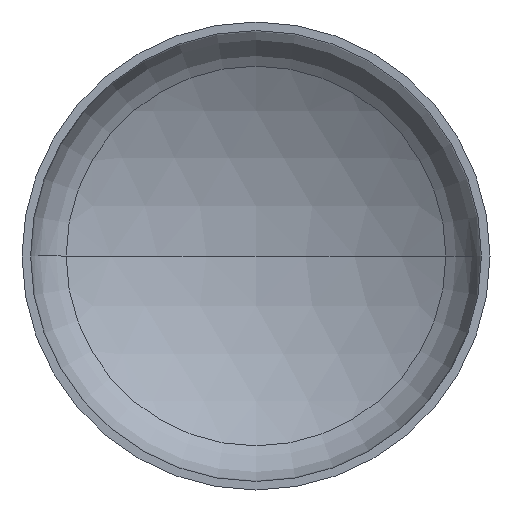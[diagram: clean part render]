
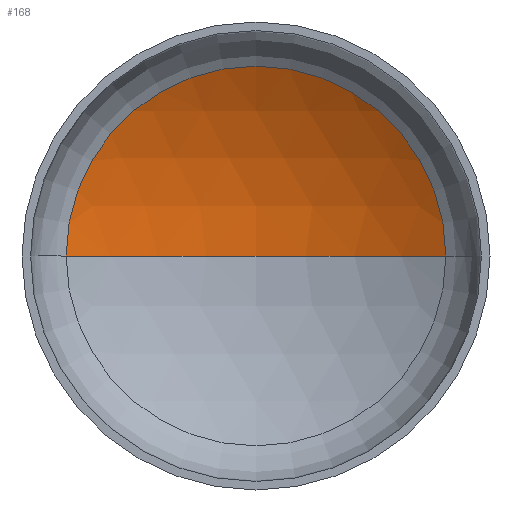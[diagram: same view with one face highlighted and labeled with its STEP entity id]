
A CAD part, front view. The second image highlights one B-rep face of the part: STEP entity #168.
In plain terms, the highlighted spherical face has radius 1920 mm.
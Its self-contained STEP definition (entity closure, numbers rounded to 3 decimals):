
#4 = CARTESIAN_POINT ( 'NONE',  ( 0., -1195.928, 0. ) ) ;
#11 = AXIS2_PLACEMENT_3D ( 'NONE', #112, #117, #229 ) ;
#16 = AXIS2_PLACEMENT_3D ( 'NONE', #119, #351, #176 ) ;
#18 = CARTESIAN_POINT ( 'NONE',  ( 0., 724.072, 0. ) ) ;
#32 = ORIENTED_EDGE ( 'NONE', *, *, #343, .T. ) ;
#34 = AXIS2_PLACEMENT_3D ( 'NONE', #4, #35, #373 ) ;
#35 = DIRECTION ( 'NONE',  ( 0., 0., -1. ) ) ;
#39 = SPHERICAL_SURFACE ( 'NONE', #34, 1920. ) ;
#48 = CARTESIAN_POINT ( 'NONE',  ( 973.626, 458.899, 0. ) ) ;
#53 = ORIENTED_EDGE ( 'NONE', *, *, #339, .T. ) ;
#79 = CARTESIAN_POINT ( 'NONE',  ( 0., -1195.928, 0. ) ) ;
#112 = CARTESIAN_POINT ( 'NONE',  ( 0., -1195.928, 0. ) ) ;
#115 = EDGE_LOOP ( 'NONE', ( #408, #32, #53 ) ) ;
#117 = DIRECTION ( 'NONE',  ( 0., 0., -1. ) ) ;
#118 = DIRECTION ( 'NONE',  ( 1., 0., 0. ) ) ;
#119 = CARTESIAN_POINT ( 'NONE',  ( 0., 458.899, 0. ) ) ;
#168 = ADVANCED_FACE ( 'NONE', ( #300 ), #39, .F. ) ;
#176 = DIRECTION ( 'NONE',  ( 1., 0., 0. ) ) ;
#198 = CARTESIAN_POINT ( 'NONE',  ( -973.626, 458.899, 0. ) ) ;
#221 = AXIS2_PLACEMENT_3D ( 'NONE', #79, #298, #118 ) ;
#229 = DIRECTION ( 'NONE',  ( -1., 0., 0. ) ) ;
#265 = VERTEX_POINT ( 'NONE', #198 ) ;
#298 = DIRECTION ( 'NONE',  ( 0., 0., 1. ) ) ;
#300 = FACE_OUTER_BOUND ( 'NONE', #115, .T. ) ;
#329 = VERTEX_POINT ( 'NONE', #18 ) ;
#339 = EDGE_CURVE ( 'NONE', #364, #265, #407, .T. ) ;
#343 = EDGE_CURVE ( 'NONE', #329, #364, #400, .T. ) ;
#351 = DIRECTION ( 'NONE',  ( 0., -1., 0. ) ) ;
#364 = VERTEX_POINT ( 'NONE', #48 ) ;
#373 = DIRECTION ( 'NONE',  ( -1., 0., 0. ) ) ;
#383 = CIRCLE ( 'NONE', #221, 1920. ) ;
#397 = EDGE_CURVE ( 'NONE', #329, #265, #383, .T. ) ;
#400 = CIRCLE ( 'NONE', #11, 1920. ) ;
#407 = CIRCLE ( 'NONE', #16, 973.626 ) ;
#408 = ORIENTED_EDGE ( 'NONE', *, *, #397, .F. ) ;
